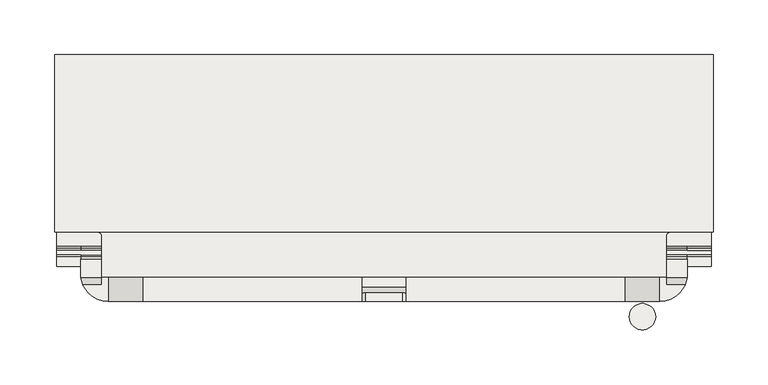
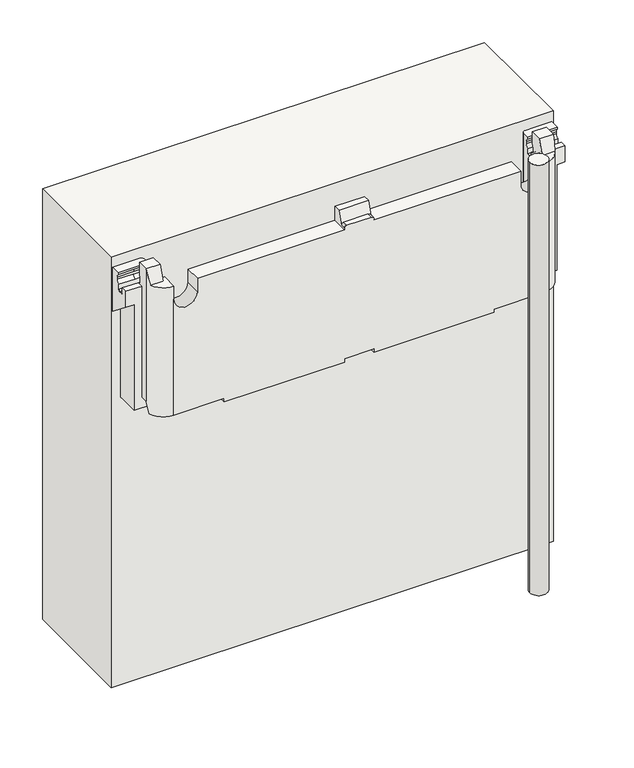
"""IFC4 building model written with IfcOpenShell, lengths in millimetres: covering geometry, panel VP Modulo prova ultima texture : panel VP Modulo prova ultima texture."""

from ifc_helpers import new_model, si_unit, point, frame, frame_2d, origin, origin_with_axes, place, context, project, spatial, polyline, circle_curve, ellipse_curve, trimmed, segment, composite_curve, outline, extrude, source, transform, mapped, element, save
from ifc_brep_helpers import plane_surface, cylinder_surface, revolved_surface, advanced_brep


def covering_2c5bf4f4(model_context):
    return source(origin(), model_context, "Body", "SolidModel", [
        advanced_brep(
        [(-20.0, 40.503817, 617.5220564), (-20.0, 49.5015434, 617.5220564), (-20.0, 49.5015434, 597.5249996), (-20.0, 27.5015432, 597.5249996), (-20.0, 27.5015432, 599.5249996), (-20.0, 34.5021229, 599.5249996), (20.0, 49.5015434, 617.5220564), (20.0, 40.503817, 617.5220564), (20.0, 34.5021229, 599.5249996), (20.0, 27.5015432, 599.5249996), (20.0, 27.5015432, 597.5249996), (20.0, 49.5015434, 597.5249996), (-17.0, 35.5025688, 602.5249996), (17.0, 35.5025688, 602.5249996), (17.0, 27.5015432, 602.5249996), (-17.0, 27.5015432, 602.5249996), (-276.2404059, 49.5015434, 617.5198754), (-276.2404059, 65.772467, 617.5198754), (-276.2404059, 65.772467, 599.5768312), (-276.2404059, 63.7739273, 594.6813202), (-276.2404059, 63.7739273, 591.6813202), (-276.2404059, 67.7745502, 586.9851203), (-276.2404059, 59.5, 586.9851203), (-276.2404059, 59.5, 427.5207128), (-276.2404059, 49.5015434, 427.5207128), (276.2404059, 67.7745502, 586.9851203), (276.2404059, 63.7739273, 591.6813202), (276.2404059, 63.7739273, 594.6813202), (276.2404059, 65.772467, 599.5768312), (276.2404059, 65.772467, 617.5198754), (276.2404059, 49.5015434, 617.5198754), (276.2404059, 49.5015434, 427.5207128), (276.2404059, 59.5, 427.5207128), (276.2404059, 59.5, 586.9851203), (219.5404059, 27.5015432, 597.5249996), (219.5404059, 49.5015434, 597.5249996), (257.5404059, 42.6167555, 597.5249996), (257.5404059, 49.5015434, 597.5249996), (251.5404059, 49.5015434, 597.5249996), (251.5404059, 27.5015432, 597.5249996), (274.4146377, 42.6167555, 597.5249996), (-251.5404059, 27.5015432, 597.5249996), (-251.5404059, 49.5015434, 597.5249996), (-257.5404059, 49.5015434, 597.5249996), (-257.5404059, 42.6167555, 597.5249996), (-274.4146377, 42.6167555, 597.5249996), (-219.5404059, 49.5015434, 597.5249996), (-219.5404059, 27.5015432, 597.5249996), (-276.2404059, 109.8415131, 434.5213892), (276.2404059, 109.8415131, 434.5213892), (276.2404059, 141.2113001, 462.1618818), (-276.2404059, 141.2113001, 462.1618818), (-276.2404059, 147.3447094, 468.6241094), (276.2404059, 147.3447094, 468.6241094), (276.2404059, 184.4941844, 515.5067645), (-276.2404059, 184.4941844, 515.5067645), (276.2404059, 184.4941844, 542.5056194), (-276.2404059, 184.4941844, 542.5056194), (298.2404059, 184.4914281, 542.5056194), (298.2404059, 202.488872, 542.5056194), (-298.2404059, 202.488872, 542.5056194), (-298.2404059, 184.4914281, 542.5056194), (-298.2404059, 202.488872, 502.7923442), (298.2404059, 202.488872, 502.7923442), (276.2404059, 193.4423608, 461.4138134), (-276.2404059, 193.4423608, 461.4138134), (-298.2404059, 193.4423608, 461.4138134), (298.2404059, 193.4423608, 461.4138134), (276.2404059, 190.281945, 460.2861233), (-276.2404059, 190.281945, 460.2861233), (298.2404059, 190.281945, 460.2861233), (298.2404059, 59.5, 563.9167777), (287.2404059, 59.5, 563.9167777), (287.2404059, 180.2456216, 468.2388324), (276.2404059, 180.2456216, 468.2388324), (-276.2404059, 180.2456216, 468.2388324), (-287.2404059, 180.2456216, 468.2388324), (-287.2404059, 59.5, 563.9167777), (-298.2404059, 59.5, 563.9167777), (-298.2404059, 190.281945, 460.2861233), (276.2404059, 174.5899002, 467.5837505), (-276.2404059, 174.5899002, 467.5837505), (287.2404059, 174.5899002, 467.5837505), (287.2404059, 160.5878776, 449.9132262), (-287.2404059, 160.5878776, 449.9132262), (-287.2404059, 174.5899002, 467.5837505), (-287.2404059, 118.1414154, 412.5128727), (287.2404059, 118.1414154, 412.5128727), (251.5404059, 118.1414154, 412.5128727), (211.5404059, 118.1414154, 412.5128727), (20.0, 118.1414154, 412.5128727), (-20.0, 118.1414154, 412.5128727), (-211.5404059, 118.1414154, 412.5128727), (-251.5404059, 118.1414154, 412.5128727), (-287.2404059, 59.5, 412.5250013), (-251.5404059, 78.1414154, 412.5250013), (-211.5404059, 78.1414154, 412.5250013), (-20.0, 78.1414154, 412.5250013), (20.0, 78.1414154, 412.5250013), (211.5404059, 78.1414154, 412.5250013), (251.5404059, 78.1414154, 412.5250013), (287.2404059, 59.5, 412.5250013), (266.2404059, 59.5, 412.5250013), (266.2404059, 44.6291413, 412.5250013), (275.1714066, 44.6291413, 412.5250013), (251.5404059, 27.5015432, 412.5250013), (183.2404059, 27.5015432, 412.5250013), (183.2404059, 67.5015432, 412.5250013), (20.0, 67.5015432, 412.5250013), (20.0, 27.5015432, 412.5250013), (-20.0, 27.5015432, 412.5250013), (-20.0, 67.5015432, 412.5250013), (-183.2404059, 67.5015432, 412.5250013), (-183.2404059, 27.5015432, 412.5250013), (-251.5404059, 27.5015432, 412.5250013), (-275.1714066, 44.6291413, 412.5250013), (-266.2404059, 44.6291413, 412.5250013), (-266.2404059, 59.5, 412.5250013), (-219.5404059, 27.5015432, 578.501469), (-251.5404059, 27.5015432, 578.501469), (-183.2404059, 27.5015432, 407.5154158), (-20.0, 27.5015432, 407.5154158), (20.0, 27.5015432, 407.5154158), (183.2404059, 27.5015432, 407.5154158), (251.5404059, 27.5015432, 578.501469), (219.5404059, 27.5015432, 578.501469), (-251.5404059, 49.5015434, 578.501469), (-219.5404059, 49.5015434, 578.501469), (219.5404059, 49.5015434, 578.501469), (251.5404059, 49.5015434, 578.501469), (257.5404059, 49.5015434, 434.5213892), (-257.5404059, 49.5015434, 434.5213892), (-276.2404059, 101.3665857, 434.5213892), (-265.6338042, 90.7599839, 434.5213892), (-261.9338042, 90.7599839, 434.5213892), (-257.5404059, 86.3665857, 434.5213892), (257.5404059, 86.3665857, 434.5213892), (261.9338042, 90.7599839, 434.5213892), (265.6338042, 90.7599839, 434.5213892), (276.2404059, 101.3665857, 434.5213892), (-298.2404059, 59.5, 586.9851203), (-298.2404059, 67.7745502, 586.9851203), (-298.2404059, 67.7745502, 579.9852856), (-298.2404059, 69.7745502, 577.9852856), (-298.2404059, 74.0001297, 577.9852856), (-298.2404059, 76.0001297, 579.9852856), (-298.2404059, 76.0001297, 586.9851203), (-298.2404059, 80.0007527, 591.6813202), (-298.2404059, 80.0007527, 594.6813202), (-298.2404059, 78.002213, 599.5768312), (-298.2404059, 78.002213, 602.5285461), (-298.2404059, 115.166168, 602.5285461), (-298.2404059, 118.166168, 599.5285461), (-298.2404059, 118.166168, 583.2479937), (-298.2404059, 119.6447617, 580.6623946), (-276.2404059, 119.6447617, 580.6623946), (-276.2404059, 118.166168, 583.2479937), (-276.2404059, 118.166168, 599.5285461), (-276.2404059, 115.166168, 602.5285461), (-276.2404059, 101.3665857, 602.5285461), (-266.2404059, 59.5, 427.5207128), (-257.5404059, 67.7745502, 586.9851203), (-257.5404059, 67.7745502, 579.9852856), (-276.2404059, 67.7745502, 579.9852856), (-276.2404059, 69.7745502, 577.9852856), (-257.5404059, 69.7745502, 577.9852856), (-257.5404059, 74.0001297, 577.9852856), (-276.2404059, 74.0001297, 577.9852856), (-276.2404059, 76.0001297, 579.9852856), (-257.5404059, 76.0001297, 579.9852856), (-257.5404059, 76.0001297, 586.9851203), (-276.2404059, 76.0001297, 586.9851203), (-276.2404059, 80.0007527, 591.6813202), (-257.5404059, 80.0007527, 591.6813202), (-257.5404059, 80.0007527, 594.6813202), (-276.2404059, 80.0007527, 594.6813202), (-276.2404059, 78.002213, 599.5768312), (-257.5404059, 78.002213, 599.5768312), (-257.5404059, 78.002213, 602.5285461), (-257.5404059, 86.3665857, 602.5285461), (-261.9338042, 90.7599839, 602.5285461), (-265.6338042, 90.7599839, 602.5285461), (-257.5404059, 63.7739273, 591.6813202), (-257.5404059, 63.7739273, 594.6813202), (-257.5404059, 65.772467, 599.5768312), (-257.5404059, 65.772467, 617.5198754), (-257.5404059, 49.5015434, 617.5198754), (298.2404059, 119.6447617, 580.6623946), (298.2404059, 118.166168, 583.2479937), (298.2404059, 118.166168, 599.5285461), (298.2404059, 115.166168, 602.5285461), (298.2404059, 78.002213, 602.5285461), (298.2404059, 78.002213, 599.5768312), (298.2404059, 80.0007527, 594.6813202), (298.2404059, 80.0007527, 591.6813202), (298.2404059, 76.0001297, 586.9851203), (298.2404059, 76.0001297, 579.9852856), (298.2404059, 74.0001297, 577.9852856), (298.2404059, 69.7745502, 577.9852856), (298.2404059, 67.7745502, 579.9852856), (298.2404059, 67.7745502, 586.9851203), (298.2404059, 59.5, 586.9851203), (276.2404059, 115.166168, 602.5285461), (276.2404059, 118.166168, 599.5285461), (276.2404059, 118.166168, 583.2479937), (276.2404059, 119.6447617, 580.6623946), (276.2404059, 101.3665857, 602.5285461), (266.2404059, 59.5, 427.5207128), (276.2404059, 69.7745502, 577.9852856), (276.2404059, 67.7745502, 579.9852856), (276.2404059, 76.0001297, 579.9852856), (276.2404059, 74.0001297, 577.9852856), (276.2404059, 80.0007527, 591.6813202), (276.2404059, 76.0001297, 586.9851203), (276.2404059, 78.002213, 599.5768312), (276.2404059, 80.0007527, 594.6813202), (257.5404059, 49.5015434, 617.5198754), (257.5404059, 65.772467, 617.5198754), (257.5404059, 65.772467, 599.5768312), (257.5404059, 63.7739273, 594.6813202), (257.5404059, 63.7739273, 591.6813202), (257.5404059, 67.7745502, 586.9851203), (257.5404059, 67.7745502, 579.9852856), (257.5404059, 69.7745502, 577.9852856), (257.5404059, 74.0001297, 577.9852856), (257.5404059, 76.0001297, 579.9852856), (257.5404059, 76.0001297, 586.9851203), (257.5404059, 80.0007527, 591.6813202), (257.5404059, 80.0007527, 594.6813202), (257.5404059, 78.002213, 599.5768312), (257.5404059, 78.002213, 602.5285461), (257.5404059, 86.3665857, 602.5285461), (265.6338042, 90.7599839, 602.5285461), (261.9338042, 90.7599839, 602.5285461), (251.5404059, 78.1414154, 407.5154158), (211.5404059, 78.1414154, 407.5154158), (211.5404059, 118.1414154, 407.5154158), (251.5404059, 118.1414154, 407.5154158), (-20.0, 78.1414154, 407.5154158), (-20.0, 118.1414154, 407.5154158), (20.0, 118.1414154, 407.5154158), (20.0, 78.1414154, 407.5154158), (-251.5404059, 78.1414154, 407.5154158), (-251.5404059, 118.1414154, 407.5154158), (-211.5404059, 118.1414154, 407.5154158), (-211.5404059, 78.1414154, 407.5154158), (20.0, 67.5015432, 407.5154158), (183.2404059, 67.5015432, 407.5154158), (-20.0, 67.5015432, 407.5154158), (-183.2404059, 67.5015432, 407.5154158), (-266.2404059, 49.5015434, 427.5207128), (266.2404059, 49.5015434, 427.5207128)],
        [
            (0, 1),
            (1, 2),
            (2, 3),
            (3, 4),
            (4, 5),
            (5, 0),
            (6, 7),
            (7, 8),
            (8, 9),
            (9, 10),
            (10, 11),
            (11, 6),
            (0, 7),
            (6, 1),
            (5, 12, ellipse_curve(frame((-17.0, 34.5021229, 599.5249996), z_axis=(0.0, 0.9486409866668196, -0.31635467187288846), x_axis=(0.0, 0.31635467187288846, 0.9486409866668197)), 3.1624187, 3.0)),
            (12, 13),
            (13, 8, ellipse_curve(frame((17.0, 34.5021229, 599.5249996), z_axis=(0.0, 0.9486409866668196, -0.31635467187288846), x_axis=(0.0, 0.31635467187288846, 0.9486409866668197)), 3.1624187, 3.0)),
            (14, 9, circle_curve(frame((17.0, 27.5015432, 599.5249996), z_axis=(0.0, 1.0, 0.0), x_axis=(-1.0, 0.0, 0.0)), 3.0)),
            (13, 14),
            (4, 15, circle_curve(frame((-17.0, 27.5015432, 599.5249996), z_axis=(0.0, 1.0, 0.0), x_axis=(-1.0, 0.0, 0.0)), 3.0)),
            (15, 12),
            (15, 14),
            (16, 17),
            (17, 18),
            (18, 19, circle_curve(frame((-276.2404059, 70.7690822, 594.6813202), z_axis=(1.0, 0.0, 0.0), x_axis=(0.0, -1.0, 0.0)), 6.9951549)),
            (19, 20),
            (20, 21, circle_curve(frame((-276.2404059, 68.5305961, 591.6813202), z_axis=(1.0, 0.0, 0.0), x_axis=(0.0, -1.0, 0.0)), 4.7566689)),
            (21, 22),
            (22, 23),
            (23, 24),
            (24, 16),
            (25, 26, circle_curve(frame((276.2404059, 68.5305961, 591.6813202), z_axis=(-1.0, 0.0, 0.0), x_axis=(0.0, -1.0, 0.0)), 4.7566689)),
            (26, 27),
            (27, 28, circle_curve(frame((276.2404059, 70.7690822, 594.6813202), z_axis=(-1.0, 0.0, 0.0), x_axis=(0.0, -1.0, 0.0)), 6.9951549)),
            (28, 29),
            (29, 30),
            (30, 31),
            (31, 32),
            (32, 33),
            (33, 25),
            (10, 34),
            (34, 35),
            (35, 11),
            (36, 37),
            (37, 38),
            (38, 39),
            (39, 40, circle_curve(frame((251.5404059, 52.367225, 597.5249996), z_axis=(0.0, 0.0, 1.0), x_axis=(1.0, 0.0, 0.0)), 24.8656818)),
            (40, 36),
            (41, 42),
            (42, 43),
            (43, 44),
            (44, 45),
            (45, 41, circle_curve(frame((-251.5404059, 52.367225, 597.5249996), z_axis=(0.0, 0.0, 1.0), x_axis=(-1.0, 0.0, 0.0)), 24.8656818)),
            (46, 47),
            (47, 3),
            (2, 46),
            (48, 49),
            (49, 50),
            (50, 51),
            (51, 48),
            (52, 53),
            (53, 54),
            (54, 55),
            (55, 52),
            (54, 56),
            (56, 57),
            (57, 55),
            (56, 58),
            (58, 59),
            (59, 60),
            (60, 61),
            (61, 57),
            (62, 60),
            (59, 63),
            (63, 62),
            (64, 65),
            (65, 66),
            (66, 62),
            (63, 67),
            (67, 64),
            (64, 68, circle_curve(frame((276.2404059, 191.5102381, 461.8362298), z_axis=(-1.0, 0.0, 0.0), x_axis=(0.0, -1.0, 0.0)), 1.9777598)),
            (68, 69),
            (69, 65, circle_curve(frame((-276.2404059, 191.5102381, 461.8362298), z_axis=(1.0, 0.0, 0.0), x_axis=(0.0, -1.0, 0.0)), 1.9777598)),
            (68, 70),
            (70, 71),
            (71, 72),
            (72, 73),
            (73, 74),
            (74, 75),
            (75, 76),
            (76, 77),
            (77, 78),
            (78, 79),
            (79, 69),
            (74, 80, circle_curve(frame((276.2404059, 177.7453022, 465.0834279), z_axis=(1.0, 0.0, 0.0), x_axis=(0.0, -1.0, 0.0)), 4.0259377)),
            (80, 81),
            (81, 75, circle_curve(frame((-276.2404059, 177.7453022, 465.0834279), z_axis=(-1.0, 0.0, 0.0), x_axis=(0.0, -1.0, 0.0)), 4.0259377)),
            (80, 82),
            (82, 83),
            (83, 84),
            (84, 85),
            (85, 81),
            (86, 84),
            (83, 87),
            (87, 88),
            (88, 89),
            (89, 90),
            (90, 91),
            (91, 92),
            (92, 93),
            (93, 86),
            (50, 53, circle_curve(frame((276.2404059, 108.1562691, 499.6767445), z_axis=(1.0, 0.0, 0.0), x_axis=(0.0, -1.0, 0.0)), 50.0)),
            (52, 51, circle_curve(frame((-276.2404059, 108.1562691, 499.6767445), z_axis=(-1.0, 0.0, 0.0), x_axis=(0.0, -1.0, 0.0)), 50.0)),
            (94, 86),
            (93, 95),
            (95, 96),
            (96, 92),
            (91, 97),
            (97, 98),
            (98, 90),
            (89, 99),
            (99, 100),
            (100, 88),
            (87, 101),
            (101, 102),
            (102, 103),
            (103, 104),
            (104, 105, circle_curve(frame((251.5404059, 52.367225, 412.5250013), z_axis=(0.0, 0.0, -1.0), x_axis=(1.0, 0.0, 0.0)), 24.8656818)),
            (105, 106),
            (106, 107),
            (107, 108),
            (108, 109),
            (109, 110),
            (110, 111),
            (111, 112),
            (112, 113),
            (113, 114),
            (114, 115, circle_curve(frame((-251.5404059, 52.367225, 412.5250013), z_axis=(0.0, 0.0, -1.0), x_axis=(-1.0, 0.0, 0.0)), 24.8656818)),
            (115, 116),
            (116, 117),
            (117, 94),
            (47, 118),
            (118, 119, circle_curve(frame((-235.5404059, 27.5015432, 578.501469), z_axis=(0.0, 1.0, 0.0), x_axis=(-1.0, 0.0, 0.0)), 16.0)),
            (119, 114),
            (113, 120),
            (120, 121),
            (121, 110),
            (109, 122),
            (122, 123),
            (123, 106),
            (105, 124),
            (124, 125, circle_curve(frame((235.5404059, 27.5015432, 578.501469), z_axis=(0.0, 1.0, 0.0), x_axis=(1.0, 0.0, 0.0)), 16.0)),
            (125, 34),
            (42, 126),
            (126, 127, circle_curve(frame((-235.5404059, 49.5015434, 578.501469), z_axis=(0.0, -1.0, 0.0), x_axis=(-1.0, 0.0, 0.0)), 16.0)),
            (127, 46),
            (35, 128),
            (128, 129, circle_curve(frame((235.5404059, 49.5015434, 578.501469), z_axis=(0.0, -1.0, 0.0), x_axis=(1.0, 0.0, 0.0)), 16.0)),
            (129, 38),
            (37, 130),
            (130, 131),
            (131, 43),
            (48, 132),
            (132, 133, circle_curve(frame((-265.6338042, 101.3665857, 434.5213892), z_axis=(0.0, 0.0, 1.0), x_axis=(-1.0, 0.0, 0.0)), 10.6066017)),
            (133, 134),
            (134, 135, circle_curve(frame((-261.9338042, 86.3665857, 434.5213892), z_axis=(0.0, 0.0, -1.0), x_axis=(-1.0, 0.0, 0.0)), 4.3933983)),
            (135, 131),
            (130, 136),
            (136, 137, circle_curve(frame((261.9338042, 86.3665857, 434.5213892), z_axis=(0.0, 0.0, -1.0), x_axis=(1.0, 0.0, 0.0)), 4.3933983)),
            (137, 138),
            (138, 139, circle_curve(frame((265.6338042, 101.3665857, 434.5213892), z_axis=(0.0, 0.0, 1.0), x_axis=(1.0, 0.0, 0.0)), 10.6066017)),
            (139, 49),
            (66, 79, circle_curve(frame((-298.2404059, 191.5102381, 461.8362298), z_axis=(-1.0, 0.0, 0.0), x_axis=(0.0, -1.0, 0.0)), 1.9777598)),
            (78, 140),
            (140, 141),
            (141, 142),
            (142, 143, circle_curve(frame((-298.2404059, 69.7745502, 579.9852856), z_axis=(1.0, 0.0, 0.0), x_axis=(0.0, -1.0, 0.0)), 2.0)),
            (143, 144),
            (144, 145, circle_curve(frame((-298.2404059, 74.0001297, 579.9852856), z_axis=(1.0, 0.0, 0.0), x_axis=(0.0, -1.0, 0.0)), 2.0)),
            (145, 146),
            (146, 147, circle_curve(frame((-298.2404059, 75.2440838, 591.6813202), z_axis=(1.0, 0.0, 0.0), x_axis=(0.0, -1.0, 0.0)), 4.7566689)),
            (147, 148),
            (148, 149, circle_curve(frame((-298.2404059, 73.0055977, 594.6813202), z_axis=(1.0, 0.0, 0.0), x_axis=(0.0, -1.0, 0.0)), 6.9951549)),
            (149, 150),
            (150, 151),
            (151, 152, circle_curve(frame((-298.2404059, 115.166168, 599.5285461), z_axis=(-1.0, 0.0, 0.0), x_axis=(0.0, -1.0, 0.0)), 3.0)),
            (152, 153),
            (153, 154, circle_curve(frame((-298.2404059, 121.166168, 583.2479937), z_axis=(1.0, 0.0, 0.0), x_axis=(0.0, -1.0, 0.0)), 3.0)),
            (154, 61),
            (57, 155),
            (155, 156, circle_curve(frame((-276.2404059, 121.166168, 583.2479937), z_axis=(-1.0, 0.0, 0.0), x_axis=(0.0, -1.0, 0.0)), 3.0)),
            (156, 157),
            (157, 158, circle_curve(frame((-276.2404059, 115.166168, 599.5285461), z_axis=(1.0, 0.0, 0.0), x_axis=(0.0, -1.0, 0.0)), 3.0)),
            (158, 159),
            (159, 132),
            (77, 94),
            (117, 160),
            (160, 23),
            (22, 140),
            (141, 21),
            (21, 161),
            (161, 162),
            (162, 163),
            (163, 142),
            (163, 164, circle_curve(frame((-276.2404059, 69.7745502, 579.9852856), z_axis=(1.0, 0.0, 0.0), x_axis=(0.0, -1.0, 0.0)), 2.0)),
            (164, 143),
            (164, 165),
            (165, 166),
            (166, 167),
            (167, 144),
            (167, 168, circle_curve(frame((-276.2404059, 74.0001297, 579.9852856), z_axis=(1.0, 0.0, 0.0), x_axis=(0.0, -1.0, 0.0)), 2.0)),
            (168, 145),
            (168, 169),
            (169, 170),
            (170, 171),
            (171, 146),
            (171, 172, circle_curve(frame((-276.2404059, 75.2440838, 591.6813202), z_axis=(1.0, 0.0, 0.0), x_axis=(0.0, -1.0, 0.0)), 4.7566689)),
            (172, 147),
            (172, 173),
            (173, 174),
            (174, 175),
            (175, 148),
            (175, 176, circle_curve(frame((-276.2404059, 73.0055977, 594.6813202), z_axis=(1.0, 0.0, 0.0), x_axis=(0.0, -1.0, 0.0)), 6.9951549)),
            (176, 149),
            (176, 177),
            (177, 178),
            (178, 150),
            (178, 179),
            (179, 180, circle_curve(frame((-261.9338042, 86.3665857, 602.5285461), z_axis=(0.0, 0.0, 1.0), x_axis=(-1.0, 0.0, 0.0)), 4.3933983)),
            (180, 181),
            (181, 159, circle_curve(frame((-265.6338042, 101.3665857, 602.5285461), z_axis=(0.0, 0.0, -1.0), x_axis=(-1.0, 0.0, 0.0)), 10.6066017)),
            (158, 151),
            (157, 152),
            (156, 153),
            (155, 154),
            (76, 85, circle_curve(frame((-287.2404059, 177.7453022, 465.0834279), z_axis=(1.0, 0.0, 0.0), x_axis=(0.0, -1.0, 0.0)), 4.0259377)),
            (45, 16, ellipse_curve(frame((-251.5404059, 52.367225, 625.842419), z_axis=(0.0, 0.9455185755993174, -0.32556815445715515), x_axis=(0.0, -0.3255681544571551, -0.9455185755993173)), 76.3762716, 24.8656818)),
            (24, 115, ellipse_curve(frame((-251.5404059, 52.367225, 436.3403739), z_axis=(0.0, -0.9510565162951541, 0.3090169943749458), x_axis=(0.0, -0.30901699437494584, -0.9510565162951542)), 80.4670366, 24.8656818)),
            (119, 41),
            (177, 174, circle_curve(frame((-257.5404059, 73.0055977, 594.6813202), z_axis=(-1.0, 0.0, 0.0), x_axis=(0.0, -1.0, 0.0)), 6.9951549)),
            (173, 170, circle_curve(frame((-257.5404059, 75.2440838, 591.6813202), z_axis=(-1.0, 0.0, 0.0), x_axis=(0.0, -1.0, 0.0)), 4.7566689)),
            (169, 166, circle_curve(frame((-257.5404059, 74.0001297, 579.9852856), z_axis=(-1.0, 0.0, 0.0), x_axis=(0.0, -1.0, 0.0)), 2.0)),
            (165, 162, circle_curve(frame((-257.5404059, 69.7745502, 579.9852856), z_axis=(-1.0, 0.0, 0.0), x_axis=(0.0, -1.0, 0.0)), 2.0)),
            (161, 182, circle_curve(frame((-257.5404059, 68.5305961, 591.6813202), z_axis=(-1.0, 0.0, 0.0), x_axis=(0.0, -1.0, 0.0)), 4.7566689)),
            (182, 183),
            (183, 184, circle_curve(frame((-257.5404059, 70.7690822, 594.6813202), z_axis=(-1.0, 0.0, 0.0), x_axis=(0.0, -1.0, 0.0)), 6.9951549)),
            (184, 185),
            (185, 186),
            (186, 44),
            (135, 179),
            (16, 186),
            (185, 17),
            (184, 18),
            (183, 19),
            (182, 20),
            (134, 180),
            (133, 181),
            (39, 124),
            (104, 31, ellipse_curve(frame((251.5404059, 52.367225, 436.3403739), z_axis=(0.0, -0.9510565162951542, 0.3090169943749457), x_axis=(0.0, -0.3090169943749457, -0.9510565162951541)), 80.4670366, 24.8656818)),
            (30, 40, ellipse_curve(frame((251.5404059, 52.367225, 625.842419), z_axis=(0.0, 0.9455185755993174, -0.3255681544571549), x_axis=(0.0, -0.3255681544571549, -0.9455185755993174)), 76.3762716, 24.8656818)),
            (58, 187),
            (187, 188, circle_curve(frame((298.2404059, 121.166168, 583.2479937), z_axis=(-1.0, 0.0, 0.0), x_axis=(0.0, -1.0, 0.0)), 3.0)),
            (188, 189),
            (189, 190, circle_curve(frame((298.2404059, 115.166168, 599.5285461), z_axis=(1.0, 0.0, 0.0), x_axis=(0.0, -1.0, 0.0)), 3.0)),
            (190, 191),
            (191, 192),
            (192, 193, circle_curve(frame((298.2404059, 73.0055977, 594.6813202), z_axis=(-1.0, 0.0, 0.0), x_axis=(0.0, -1.0, 0.0)), 6.9951549)),
            (193, 194),
            (194, 195, circle_curve(frame((298.2404059, 75.2440838, 591.6813202), z_axis=(-1.0, 0.0, 0.0), x_axis=(0.0, -1.0, 0.0)), 4.7566689)),
            (195, 196),
            (196, 197, circle_curve(frame((298.2404059, 74.0001297, 579.9852856), z_axis=(-1.0, 0.0, 0.0), x_axis=(0.0, -1.0, 0.0)), 2.0)),
            (197, 198),
            (198, 199, circle_curve(frame((298.2404059, 69.7745502, 579.9852856), z_axis=(-1.0, 0.0, 0.0), x_axis=(0.0, -1.0, 0.0)), 2.0)),
            (199, 200),
            (200, 201),
            (201, 71),
            (70, 67, circle_curve(frame((298.2404059, 191.5102381, 461.8362298), z_axis=(1.0, 0.0, 0.0), x_axis=(0.0, -1.0, 0.0)), 1.9777598)),
            (202, 203, circle_curve(frame((276.2404059, 115.166168, 599.5285461), z_axis=(-1.0, 0.0, 0.0), x_axis=(0.0, -1.0, 0.0)), 3.0)),
            (203, 204),
            (204, 205, circle_curve(frame((276.2404059, 121.166168, 583.2479937), z_axis=(1.0, 0.0, 0.0), x_axis=(0.0, -1.0, 0.0)), 3.0)),
            (205, 56),
            (139, 206),
            (206, 202),
            (201, 33),
            (32, 207),
            (207, 102),
            (101, 72),
            (198, 208),
            (208, 209, circle_curve(frame((276.2404059, 69.7745502, 579.9852856), z_axis=(-1.0, 0.0, 0.0), x_axis=(0.0, -1.0, 0.0)), 2.0)),
            (209, 199),
            (196, 210),
            (210, 211, circle_curve(frame((276.2404059, 74.0001297, 579.9852856), z_axis=(-1.0, 0.0, 0.0), x_axis=(0.0, -1.0, 0.0)), 2.0)),
            (211, 197),
            (194, 212),
            (212, 213, circle_curve(frame((276.2404059, 75.2440838, 591.6813202), z_axis=(-1.0, 0.0, 0.0), x_axis=(0.0, -1.0, 0.0)), 4.7566689)),
            (213, 195),
            (192, 214),
            (214, 215, circle_curve(frame((276.2404059, 73.0055977, 594.6813202), z_axis=(-1.0, 0.0, 0.0), x_axis=(0.0, -1.0, 0.0)), 6.9951549)),
            (215, 193),
            (189, 203),
            (202, 190),
            (188, 204),
            (187, 205),
            (200, 25),
            (36, 216),
            (216, 217),
            (217, 218),
            (218, 219, circle_curve(frame((257.5404059, 70.7690822, 594.6813202), z_axis=(1.0, 0.0, 0.0), x_axis=(0.0, -1.0, 0.0)), 6.9951549)),
            (219, 220),
            (220, 221, circle_curve(frame((257.5404059, 68.5305961, 591.6813202), z_axis=(1.0, 0.0, 0.0), x_axis=(0.0, -1.0, 0.0)), 4.7566689)),
            (221, 222),
            (222, 223, circle_curve(frame((257.5404059, 69.7745502, 579.9852856), z_axis=(1.0, 0.0, 0.0), x_axis=(0.0, -1.0, 0.0)), 2.0)),
            (223, 224),
            (224, 225, circle_curve(frame((257.5404059, 74.0001297, 579.9852856), z_axis=(1.0, 0.0, 0.0), x_axis=(0.0, -1.0, 0.0)), 2.0)),
            (225, 226),
            (226, 227, circle_curve(frame((257.5404059, 75.2440838, 591.6813202), z_axis=(1.0, 0.0, 0.0), x_axis=(0.0, -1.0, 0.0)), 4.7566689)),
            (227, 228),
            (228, 229, circle_curve(frame((257.5404059, 73.0055977, 594.6813202), z_axis=(1.0, 0.0, 0.0), x_axis=(0.0, -1.0, 0.0)), 6.9951549)),
            (229, 230),
            (230, 231),
            (231, 136),
            (221, 25),
            (209, 222),
            (208, 223),
            (29, 217),
            (216, 30),
            (28, 218),
            (27, 219),
            (26, 220),
            (211, 224),
            (210, 225),
            (213, 226),
            (212, 227),
            (215, 228),
            (214, 229),
            (191, 230),
            (206, 232, circle_curve(frame((265.6338042, 101.3665857, 602.5285461), z_axis=(0.0, 0.0, -1.0), x_axis=(1.0, 0.0, 0.0)), 10.6066017)),
            (232, 233),
            (233, 231, circle_curve(frame((261.9338042, 86.3665857, 602.5285461), z_axis=(0.0, 0.0, 1.0), x_axis=(1.0, 0.0, 0.0)), 4.3933983)),
            (233, 137),
            (232, 138),
            (119, 126),
            (127, 118),
            (129, 124),
            (125, 128),
            (82, 73, circle_curve(frame((287.2404059, 177.7453022, 465.0834279), z_axis=(-1.0, 0.0, 0.0), x_axis=(0.0, -1.0, 0.0)), 4.0259377)),
            (234, 235),
            (235, 236),
            (236, 237),
            (237, 234),
            (234, 100),
            (99, 235),
            (89, 236),
            (88, 237),
            (238, 239),
            (239, 240),
            (240, 241),
            (241, 238),
            (241, 98),
            (97, 238),
            (240, 90),
            (239, 91),
            (242, 243),
            (243, 244),
            (244, 245),
            (245, 242),
            (245, 96),
            (95, 242),
            (244, 92),
            (243, 93),
            (246, 247),
            (247, 123),
            (122, 246),
            (248, 121),
            (120, 249),
            (249, 248),
            (108, 246),
            (247, 107),
            (249, 112),
            (111, 248),
            (250, 160),
            (116, 250),
            (250, 24),
            (251, 103),
            (207, 251),
            (31, 251),
        ],
        [
            plane_surface(frame((-20.0, 49.5042184, 617.5220564), z_axis=(-1.0, 0.0, 0.0), x_axis=(0.0, 1.0, 0.0))),
            plane_surface(frame((20.0, 49.5042184, 617.5220564), z_axis=(1.0, 0.0, 0.0), x_axis=(0.0, -1.0, 0.0))),
            plane_surface(frame((-20.0, 40.503817, 617.5220564), z_axis=(0.0, 0.0, 1.0), x_axis=(1.0, 0.0, 0.0))),
            plane_surface(frame((-20.0, 33.835159, 597.5249996), z_axis=(0.0, -0.9486409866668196, 0.31635467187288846), x_axis=(1.0, 0.0, 0.0))),
            cylinder_surface(frame((17.0, 27.5015432, 599.5249996), z_axis=(0.0, 1.0, 0.0), x_axis=(-1.0, 0.0, 0.0)), 3.0),
            cylinder_surface(frame((-17.0, 27.5015432, 599.5249996), z_axis=(0.0, 1.0, 0.0), x_axis=(-1.0, 0.0, 0.0)), 3.0),
            plane_surface(frame((-17.0, 49.501543, 602.5249996), z_axis=(0.0, 0.0, 1.0), x_axis=(0.0, -1.0, 0.0))),
            plane_surface(frame((-276.2404059, 118.1414154, 412.5128727), z_axis=(-1.0, 0.0, 0.0), x_axis=(0.0, -0.7502972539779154, -0.6611006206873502))),
            plane_surface(frame((276.2404059, 118.1414154, 412.5128727), z_axis=(1.0, 0.0, 0.0), x_axis=(0.0, 0.7502972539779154, 0.6611006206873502))),
            plane_surface(frame((-276.2404059, 27.5015432, 597.5249996), z_axis=(0.0, 0.0, 1.0), x_axis=(1.0, 0.0, 0.0))),
            plane_surface(frame((-276.2404059, 109.8415131, 434.5213892), z_axis=(0.0, -0.6611006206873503, 0.7502972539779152), x_axis=(1.0, 0.0, 0.0))),
            plane_surface(frame((-276.2404059, 147.3447094, 468.6241094), z_axis=(0.0, -0.7837688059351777, 0.6210527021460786), x_axis=(1.0, 0.0, 0.0))),
            plane_surface(frame((-276.2404059, 184.4941844, 515.5067645), z_axis=(0.0, -1.0, 0.0), x_axis=(1.0, 0.0, 0.0))),
            plane_surface(frame((-276.2404059, 184.4941844, 542.5056194), z_axis=(0.0, 0.0, 1.0), x_axis=(1.0, 0.0, 0.0))),
            plane_surface(frame((-276.2404059, 202.488872, 542.5056194), z_axis=(0.0, 1.0, 0.0), x_axis=(1.0, 0.0, 0.0))),
            plane_surface(frame((-276.2404059, 202.488872, 502.7923442), z_axis=(0.0, 0.9769248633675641, -0.21358326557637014), x_axis=(1.0, 0.0, 0.0))),
            cylinder_surface(frame((276.2404059, 191.5102381, 461.8362298), z_axis=(-1.0, 0.0, 0.0), x_axis=(0.0, -1.0, 0.0)), 1.9777598),
            plane_surface(frame((-276.2404059, 190.281945, 460.2861233), z_axis=(0.0, -0.6210526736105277, -0.7837688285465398), x_axis=(1.0, 0.0, 0.0))),
            revolved_surface(polyline([(276.2404059, 173.71936449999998, 465.0834279), (-276.2404059, 173.71936449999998, 465.0834279)]), (276.2404059, 177.7453022, 465.0834279), (1.0, 0.0, 0.0)),
            plane_surface(frame((-276.2404059, 174.5899002, 467.5837505), z_axis=(0.0, 0.7837682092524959, -0.6210534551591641), x_axis=(1.0, 0.0, 0.0))),
            plane_surface(frame((-276.2404059, 160.5878776, 449.9132262), z_axis=(0.0, 0.6611006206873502, -0.7502972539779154), x_axis=(1.0, 0.0, 0.0))),
            revolved_surface(polyline([(276.2404059, 58.1562691, 499.6767445), (-276.2404059, 58.1562691, 499.6767445)]), (276.2404059, 108.1562691, 499.6767445), (1.0, 0.0, 0.0)),
            plane_surface(frame((-276.2404059, 118.1551803, 412.5250013), z_axis=(0.0, 0.0, -1.0), x_axis=(1.0, 0.0, 0.0))),
            plane_surface(frame((-276.2404059, 27.5015432, 412.5250013), z_axis=(0.0, -1.0, 0.0), x_axis=(1.0, 0.0, 0.0))),
            plane_surface(frame((-276.2404059, 49.5015434, 597.5249996), z_axis=(0.0, 1.0, 0.0), x_axis=(1.0, 0.0, 0.0))),
            plane_surface(frame((-276.2404059, 49.5015434, 434.5213892), z_axis=(0.0, 0.0, 1.0), x_axis=(1.0, 0.0, 0.0))),
            plane_surface(frame((-298.2404059, 202.488872, 502.7923442), z_axis=(-1.0000000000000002, 0.0, 0.0), x_axis=(0.0, -0.21358326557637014, -0.9769248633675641))),
            plane_surface(frame((-276.2404059, 202.488872, 502.7923442), z_axis=(1.0000000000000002, 0.0, 0.0), x_axis=(0.0, 0.21358326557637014, 0.9769248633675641))),
            cylinder_surface(frame((-276.2404059, 191.5102381, 461.8362298), z_axis=(-1.0, 0.0, 0.0), x_axis=(0.0, -1.0, 0.0)), 1.9777598),
            plane_surface(frame((-298.2404059, 59.5, 563.9167777), z_axis=(0.0, -1.0, 0.0), x_axis=(1.0, 0.0, 0.0))),
            plane_surface(frame((-298.2404059, 67.7745502, 586.9851203), z_axis=(0.0, 1.0, 0.0), x_axis=(1.0, 0.0, 0.0))),
            revolved_surface(polyline([(-276.2404059, 67.7745502, 579.9852856), (-298.2404059, 67.7745502, 579.9852856)]), (-276.2404059, 69.7745502, 579.9852856), (1.0, 0.0, 0.0)),
            plane_surface(frame((-298.2404059, 69.7745502, 577.9852856), z_axis=(0.0, 0.0, 1.0), x_axis=(1.0, 0.0, 0.0))),
            revolved_surface(polyline([(-276.2404059, 72.0001297, 579.9852856), (-298.2404059, 72.0001297, 579.9852856)]), (-276.2404059, 74.0001297, 579.9852856), (1.0, 0.0, 0.0)),
            plane_surface(frame((-298.2404059, 76.0001297, 579.9852856), z_axis=(0.0, -1.0, 0.0), x_axis=(1.0, 0.0, 0.0))),
            revolved_surface(polyline([(-276.2404059, 70.4874149, 591.6813202), (-298.2404059, 70.4874149, 591.6813202)]), (-276.2404059, 75.2440838, 591.6813202), (1.0, 0.0, 0.0)),
            plane_surface(frame((-298.2404059, 80.0007527, 591.6813202), z_axis=(0.0, -1.0, 0.0), x_axis=(1.0, 0.0, 0.0))),
            revolved_surface(polyline([(-276.2404059, 66.01044279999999, 594.6813202), (-298.2404059, 66.01044279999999, 594.6813202)]), (-276.2404059, 73.0055977, 594.6813202), (1.0, 0.0, 0.0)),
            plane_surface(frame((-298.2404059, 78.002213, 599.5768312), z_axis=(0.0, -1.0, 0.0), x_axis=(1.0, 0.0, 0.0))),
            plane_surface(frame((-298.2404059, 78.002213, 602.5285461), z_axis=(0.0, 0.0, 1.0), x_axis=(1.0, 0.0, 0.0))),
            cylinder_surface(frame((-276.2404059, 115.166168, 599.5285461), z_axis=(-1.0, 0.0, 0.0), x_axis=(0.0, -1.0, 0.0)), 3.0),
            plane_surface(frame((-298.2404059, 118.166168, 599.5285461), z_axis=(0.0, 1.0, 0.0), x_axis=(1.0, 0.0, 0.0))),
            revolved_surface(polyline([(-276.2404059, 118.166168, 583.2479937), (-298.2404059, 118.166168, 583.2479937)]), (-276.2404059, 121.166168, 583.2479937), (1.0, 0.0, 0.0)),
            plane_surface(frame((-298.2404059, 119.6447617, 580.6623946), z_axis=(0.0, 0.5071354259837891, 0.8618663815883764), x_axis=(1.0, 0.0, 0.0))),
            plane_surface(frame((-298.2404059, 59.5, 586.9851203), z_axis=(0.0, 0.0, 1.0), x_axis=(1.0, 0.0, 0.0))),
            plane_surface(frame((-287.2404059, 174.5899002, 467.5837505), z_axis=(-1.0, 0.0, 0.0), x_axis=(0.0, -0.6210534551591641, -0.7837682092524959))),
            revolved_surface(polyline([(-276.2404059, 173.71936449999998, 465.0834279), (-287.2404059, 173.71936449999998, 465.0834279)]), (-276.2404059, 177.7453022, 465.0834279), (1.0, 0.0, 0.0)),
            cylinder_surface(frame((-251.5404059, 52.367225, 407.5154158), z_axis=(0.0, 0.0, -1.0), x_axis=(-1.0, 0.0, 0.0)), 24.8656818),
            plane_surface(frame((-257.5404059, 33.2976457, 597.5249996), z_axis=(1.0, 0.0, 0.0), x_axis=(0.0, 1.0, 0.0))),
            revolved_surface(polyline([(-257.5404059, 67.7745502, 579.9852856), (-276.2404059, 67.7745502, 579.9852856)]), (-257.5404059, 69.7745502, 579.9852856), (1.0, 0.0, 0.0)),
            plane_surface(frame((-276.2404059, 49.5015434, 617.5198754), z_axis=(0.0, 0.0, 1.0), x_axis=(1.0, 0.0, 0.0))),
            plane_surface(frame((-276.2404059, 65.772467, 617.5198754), z_axis=(0.0, 1.0, 0.0), x_axis=(1.0, 0.0, 0.0))),
            revolved_surface(polyline([(-257.5404059, 63.7739273, 594.6813202), (-276.2404059, 63.7739273, 594.6813202)]), (-257.5404059, 70.7690822, 594.6813202), (1.0, 0.0, 0.0)),
            plane_surface(frame((-276.2404059, 63.7739273, 594.6813202), z_axis=(0.0, 1.0, 0.0), x_axis=(1.0, 0.0, 0.0))),
            revolved_surface(polyline([(-257.5404059, 63.773927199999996, 591.6813202), (-276.2404059, 63.773927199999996, 591.6813202)]), (-257.5404059, 68.5305961, 591.6813202), (1.0, 0.0, 0.0)),
            revolved_surface(polyline([(-257.5404059, 72.0001297, 579.9852856), (-276.2404059, 72.0001297, 579.9852856)]), (-257.5404059, 74.0001297, 579.9852856), (1.0, 0.0, 0.0)),
            revolved_surface(polyline([(-257.5404059, 70.4874149, 591.6813202), (-276.2404059, 70.4874149, 591.6813202)]), (-257.5404059, 75.2440838, 591.6813202), (1.0, 0.0, 0.0)),
            revolved_surface(polyline([(-257.5404059, 66.01044279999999, 594.6813202), (-276.2404059, 66.01044279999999, 594.6813202)]), (-257.5404059, 73.0055977, 594.6813202), (1.0, 0.0, 0.0)),
            plane_surface(frame((-276.2404059, 42.6167555, 597.5249996), z_axis=(0.0, -0.9455185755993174, 0.32556815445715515), x_axis=(1.0, 0.0, 0.0))),
            cylinder_surface(frame((-261.9338042, 86.3665857, 434.5213892), z_axis=(0.0, 0.0, 1.0), x_axis=(-1.0, 0.0, 0.0)), 4.3933983),
            plane_surface(frame((-261.9338042, 90.7599839, 602.5285461), z_axis=(0.0, 1.0, 0.0), x_axis=(0.0, 0.0, -1.0))),
            revolved_surface(polyline([(-276.2404059, 101.3665857, 434.5213892), (-276.2404059, 101.3665857, 602.5285461)]), (-265.6338042, 101.3665857, 434.5213892), (0.0, 0.0, -1.0)),
            cylinder_surface(frame((251.5404059, 52.367225, 407.5154158), z_axis=(0.0, 0.0, -1.0), x_axis=(1.0, 0.0, 0.0)), 24.8656818),
            plane_surface(frame((298.2404059, 202.488872, 542.5056194), z_axis=(1.0, 0.0, 0.0), x_axis=(0.0, 0.0, 1.0))),
            plane_surface(frame((276.2404059, 202.488872, 542.5056194), z_axis=(-1.0, 0.0, 0.0), x_axis=(0.0, 0.0, -1.0))),
            cylinder_surface(frame((276.2404059, 191.5102381, 461.8362298), z_axis=(1.0, 0.0, 0.0), x_axis=(0.0, -1.0, 0.0)), 1.9777598),
            plane_surface(frame((298.2404059, 59.5, 586.9851203), z_axis=(0.0, -1.0, 0.0), x_axis=(-1.0, 0.0, 0.0))),
            revolved_surface(polyline([(276.2404059, 67.7745502, 579.9852856), (298.2404059, 67.7745502, 579.9852856)]), (276.2404059, 69.7745502, 579.9852856), (-1.0, 0.0, 0.0)),
            revolved_surface(polyline([(276.2404059, 72.0001297, 579.9852856), (298.2404059, 72.0001297, 579.9852856)]), (276.2404059, 74.0001297, 579.9852856), (-1.0, 0.0, 0.0)),
            revolved_surface(polyline([(276.2404059, 70.4874149, 591.6813202), (298.2404059, 70.4874149, 591.6813202)]), (276.2404059, 75.2440838, 591.6813202), (-1.0, 0.0, 0.0)),
            revolved_surface(polyline([(276.2404059, 66.01044279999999, 594.6813202), (298.2404059, 66.01044279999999, 594.6813202)]), (276.2404059, 73.0055977, 594.6813202), (-1.0, 0.0, 0.0)),
            cylinder_surface(frame((276.2404059, 115.166168, 599.5285461), z_axis=(1.0, 0.0, 0.0), x_axis=(0.0, -1.0, 0.0)), 3.0),
            plane_surface(frame((298.2404059, 118.166168, 583.2479937), z_axis=(0.0, 1.0, 0.0), x_axis=(-1.0, 0.0, 0.0))),
            revolved_surface(polyline([(276.2404059, 118.166168, 583.2479937), (298.2404059, 118.166168, 583.2479937)]), (276.2404059, 121.166168, 583.2479937), (-1.0, 0.0, 0.0)),
            plane_surface(frame((298.2404059, 184.4914281, 542.5056194), z_axis=(0.0, 0.5071354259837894, 0.8618663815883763), x_axis=(-1.0, 0.0, 0.0))),
            plane_surface(frame((298.2404059, 67.7745502, 586.9851203), z_axis=(0.0, 0.0, 1.0), x_axis=(-1.0, 0.0, 0.0))),
            plane_surface(frame((257.5404059, 49.5015434, 292.1821377), z_axis=(-1.0, 0.0, 0.0), x_axis=(0.0, 0.0, 1.0))),
            plane_surface(frame((276.2404059, 67.7745502, 579.9852856), z_axis=(0.0, 1.0, 0.0), x_axis=(-1.0, 0.0, 0.0))),
            revolved_surface(polyline([(257.5404059, 67.7745502, 579.9852856), (276.2404059, 67.7745502, 579.9852856)]), (257.5404059, 69.7745502, 579.9852856), (-1.0, 0.0, 0.0)),
            plane_surface(frame((276.2404059, 65.772467, 617.5198754), z_axis=(0.0, 0.0, 1.0), x_axis=(-1.0, 0.0, 0.0))),
            plane_surface(frame((276.2404059, 65.772467, 599.5768312), z_axis=(0.0, 1.0, 0.0), x_axis=(-1.0, 0.0, 0.0))),
            revolved_surface(polyline([(257.5404059, 63.7739273, 594.6813202), (276.2404059, 63.7739273, 594.6813202)]), (257.5404059, 70.7690822, 594.6813202), (-1.0, 0.0, 0.0)),
            plane_surface(frame((276.2404059, 63.7739273, 591.6813202), z_axis=(0.0, 1.0, 0.0), x_axis=(-1.0, 0.0, 0.0))),
            revolved_surface(polyline([(257.5404059, 63.773927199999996, 591.6813202), (276.2404059, 63.773927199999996, 591.6813202)]), (257.5404059, 68.5305961, 591.6813202), (-1.0, 0.0, 0.0)),
            plane_surface(frame((276.2404059, 74.0001297, 577.9852856), z_axis=(0.0, 0.0, 1.0), x_axis=(-1.0, 0.0, 0.0))),
            revolved_surface(polyline([(257.5404059, 72.0001297, 579.9852856), (276.2404059, 72.0001297, 579.9852856)]), (257.5404059, 74.0001297, 579.9852856), (-1.0, 0.0, 0.0)),
            plane_surface(frame((276.2404059, 76.0001297, 586.9851203), z_axis=(0.0, -1.0, 0.0), x_axis=(-1.0, 0.0, 0.0))),
            revolved_surface(polyline([(257.5404059, 70.4874149, 591.6813202), (276.2404059, 70.4874149, 591.6813202)]), (257.5404059, 75.2440838, 591.6813202), (-1.0, 0.0, 0.0)),
            plane_surface(frame((276.2404059, 80.0007527, 594.6813202), z_axis=(0.0, -1.0, 0.0), x_axis=(-1.0, 0.0, 0.0))),
            revolved_surface(polyline([(257.5404059, 66.01044279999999, 594.6813202), (276.2404059, 66.01044279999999, 594.6813202)]), (257.5404059, 73.0055977, 594.6813202), (-1.0, 0.0, 0.0)),
            plane_surface(frame((276.2404059, 78.002213, 602.5285461), z_axis=(0.0, -1.0, 0.0), x_axis=(-1.0, 0.0, 0.0))),
            plane_surface(frame((276.2404059, 86.3665857, 602.5285461), z_axis=(0.0, 0.0, 1.0), x_axis=(-1.0, 0.0, 0.0))),
            plane_surface(frame((276.2404059, 49.5015434, 617.5198754), z_axis=(0.0, -0.9455185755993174, 0.3255681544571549), x_axis=(-1.0, 0.0, 0.0))),
            cylinder_surface(frame((261.9338042, 86.3665857, 434.5213892), z_axis=(0.0, 0.0, 1.0), x_axis=(1.0, 0.0, 0.0)), 4.3933983),
            plane_surface(frame((265.6338042, 90.7599839, 602.5285461), z_axis=(0.0, 1.0, 0.0), x_axis=(0.0, 0.0, -1.0))),
            revolved_surface(polyline([(276.2404059, 101.3665857, 434.5213892), (276.2404059, 101.3665857, 602.5285461)]), (265.6338042, 101.3665857, 434.5213892), (0.0, 0.0, -1.0)),
            plane_surface(frame((-251.5404059, 76.0001297, 578.501469), z_axis=(1.0, 0.0, 0.0), x_axis=(0.0, -1.0, 0.0))),
            plane_surface(frame((-219.5404059, 76.0001297, 609.431679), z_axis=(-1.0, 0.0, 0.0), x_axis=(0.0, -1.0, 0.0))),
            revolved_surface(polyline([(-251.5404059, 49.5015434, 578.501469), (-251.5404059, 27.5015432, 578.501469)]), (-235.5404059, -1.8695967, 578.501469), (0.0, 1.0, 0.0)),
            plane_surface(frame((251.5404059, 76.0001297, 609.431679), z_axis=(-1.0, 0.0, 0.0), x_axis=(0.0, -1.0, 0.0))),
            plane_surface(frame((219.5404059, 76.0001297, 578.501469), z_axis=(1.0, 0.0, 0.0), x_axis=(0.0, -1.0, 0.0))),
            revolved_surface(polyline([(251.5404059, 49.5015434, 578.501469), (251.5404059, 27.5015432, 578.501469)]), (235.5404059, -1.8695967, 578.501469), (0.0, 1.0, 0.0)),
            plane_surface(frame((287.2404059, 173.7193644, 465.0834279), z_axis=(1.0, 0.0, 0.0), x_axis=(0.0, 0.0, 1.0))),
            revolved_surface(polyline([(276.2404059, 173.71936449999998, 465.0834279), (287.2404059, 173.71936449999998, 465.0834279)]), (276.2404059, 177.7453022, 465.0834279), (-1.0, 0.0, 0.0)),
            plane_surface(frame((251.5404059, 78.1414154, 407.5154158), z_axis=(0.0, 0.0, -1.0), x_axis=(0.0, -1.0, 0.0))),
            plane_surface(frame((211.5404059, 78.1414154, 412.5069222), z_axis=(0.0, -1.0, 0.0), x_axis=(0.0, 0.0, -1.0))),
            plane_surface(frame((211.5404059, 118.1414154, 412.5069222), z_axis=(-1.0, 0.0, 0.0), x_axis=(0.0, 0.0, -1.0))),
            plane_surface(frame((251.5404059, 118.1414154, 412.5069222), z_axis=(0.0, 1.0, 0.0), x_axis=(0.0, 0.0, -1.0))),
            plane_surface(frame((251.5404059, 78.1414154, 412.5069222), z_axis=(1.0, 0.0, 0.0), x_axis=(0.0, 0.0, -1.0))),
            plane_surface(frame((20.0, 78.1414154, 407.5154158), z_axis=(0.0, 0.0, -1.0), x_axis=(-1.0, 0.0, 0.0))),
            plane_surface(frame((-20.0, 78.1414154, 412.5069222), z_axis=(0.0, -1.0, 0.0), x_axis=(0.0, 0.0, -1.0))),
            plane_surface(frame((20.0, 78.1414154, 412.5069222), z_axis=(1.0, 0.0, 0.0), x_axis=(0.0, 0.0, -1.0))),
            plane_surface(frame((20.0, 118.1414154, 412.5069222), z_axis=(0.0, 1.0, 0.0), x_axis=(0.0, 0.0, -1.0))),
            plane_surface(frame((-20.0, 118.1414154, 412.5069222), z_axis=(-1.0, 0.0, 0.0), x_axis=(0.0, 0.0, -1.0))),
            plane_surface(frame((-211.5404059, 78.1414154, 407.5154158), z_axis=(0.0, 0.0, -1.0), x_axis=(-1.0, 0.0, 0.0))),
            plane_surface(frame((-251.5404059, 78.1414154, 412.5069222), z_axis=(0.0, -1.0, 0.0), x_axis=(0.0, 0.0, -1.0))),
            plane_surface(frame((-211.5404059, 78.1414154, 412.5069222), z_axis=(1.0, 0.0, 0.0), x_axis=(0.0, 0.0, -1.0))),
            plane_surface(frame((-211.5404059, 118.1414154, 412.5069222), z_axis=(0.0, 1.0, 0.0), x_axis=(0.0, 0.0, -1.0))),
            plane_surface(frame((-251.5404059, 118.1414154, 412.5069222), z_axis=(-1.0, 0.0, 0.0), x_axis=(0.0, 0.0, -1.0))),
            plane_surface(frame((20.0, 27.5015432, 407.5154158), z_axis=(0.0, 0.0, -1.0), x_axis=(0.0, 1.0, 0.0))),
            plane_surface(frame((20.0, 67.5015432, 412.5069222), z_axis=(-1.0, 0.0, 0.0), x_axis=(0.0, 0.0, -1.0))),
            plane_surface(frame((183.2404059, 27.5015432, 412.5069222), z_axis=(1.0, 0.0, 0.0), x_axis=(0.0, 0.0, -1.0))),
            plane_surface(frame((183.2404059, 67.5015432, 412.5069222), z_axis=(0.0, 1.0, 0.0), x_axis=(0.0, 0.0, -1.0))),
            plane_surface(frame((-20.0, 67.5015432, 412.5069222), z_axis=(0.0, 1.0, 0.0), x_axis=(0.0, 0.0, -1.0))),
            plane_surface(frame((-183.2404059, 67.5015432, 412.5069222), z_axis=(-1.0, 0.0, 0.0), x_axis=(0.0, 0.0, -1.0))),
            plane_surface(frame((-20.0, 27.5015432, 412.5069222), z_axis=(1.0, 0.0, 0.0), x_axis=(0.0, 0.0, -1.0))),
            plane_surface(frame((-266.2404059, 59.5, 427.5207128), z_axis=(-1.0, 0.0, 0.0), x_axis=(0.0, -1.0, 0.0))),
            plane_surface(frame((-298.2404059, 49.5015434, 427.5207128), z_axis=(0.0, 0.0, -1.0), x_axis=(1.0, 0.0, 0.0))),
            plane_surface(frame((-298.2404059, 44.6291413, 412.5250013), z_axis=(0.0, 0.9510565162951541, -0.3090169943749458), x_axis=(1.0, 0.0, 0.0))),
            plane_surface(frame((266.2404059, 49.5015434, 427.5207128), z_axis=(1.0000000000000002, 0.0, 0.0), x_axis=(0.0, 0.3090169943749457, 0.9510565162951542))),
            plane_surface(frame((298.2404059, 59.5, 427.5207128), z_axis=(0.0, 0.0, -1.0), x_axis=(-1.0, 0.0, 0.0))),
            plane_surface(frame((298.2404059, 49.5015434, 427.5207128), z_axis=(0.0, 0.9510565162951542, -0.3090169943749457), x_axis=(-1.0, 0.0, 0.0))),
        ],
        [
            (0, [[1, 2, 3, 4, 5, 6]]),
            (1, [[7, 8, 9, 10, 11, 12]]),
            (2, [[-1, 13, -7, 14]]),
            (3, [[-13, -6, 15, 16, 17, -8]]),
            (4, [[18, -9, -17, 19]]),
            (5, [[20, 21, -15, -5]]),
            (6, [[22, -19, -16, -21]]),
            (7, [[23, 24, 25, 26, 27, 28, 29, 30, 31]]),
            (8, [[32, 33, 34, 35, 36, 37, 38, 39, 40]]),
            (9, [[-11, 41, 42, 43]]),
            (9, [[44, 45, 46, 47, 48]]),
            (9, [[49, 50, 51, 52, 53]]),
            (9, [[54, 55, -3, 56]]),
            (10, [[57, 58, 59, 60]]),
            (11, [[61, 62, 63, 64]]),
            (12, [[-63, 65, 66, 67]]),
            (13, [[-66, 68, 69, 70, 71, 72]]),
            (14, [[73, -70, 74, 75]]),
            (15, [[76, 77, 78, -75, 79, 80]]),
            (16, [[-76, 81, 82, 83]]),
            (17, [[-82, 84, 85, 86, 87, 88, 89, 90, 91, 92, 93, 94]]),
            (18, [[-89, 95, 96, 97]]),
            (19, [[-96, 98, 99, 100, 101, 102]]),
            (20, [[103, -100, 104, 105, 106, 107, 108, 109, 110, 111]]),
            (21, [[-59, 112, -61, 113]]),
            (22, [[114, -111, 115, 116, 117, -109, 118, 119, 120, -107, 121, 122, 123, -105, 124, 125, 126, 127, 128, 129, 130, 131, 132, 133, 134, 135, 136, 137, 138, 139, 140, 141]]),
            (23, [[142, 143, 144, -137, 145, 146, 147, -133, 148, 149, 150, -129, 151, 152, 153, -41, -10, -18, -22, -20, -4, -55]]),
            (24, [[154, 155, 156, -56, -2, -14, -12, -43, 157, 158, 159, -45, 160, 161, 162, -50]]),
            (25, [[-57, 163, 164, 165, 166, 167, -161, 168, 169, 170, 171, 172]]),
            (26, [[-78, 173, -93, 174, 175, 176, 177, 178, 179, 180, 181, 182, 183, 184, 185, 186, 187, 188, 189, -71, -73]]),
            (27, [[190, 191, 192, 193, 194, 195, -163, -60, -113, -64, -67]]),
            (28, [[-173, -77, -83, -94]]),
            (29, [[-174, -92, 196, -141, 197, 198, -29, 199]]),
            (30, [[-176, 200, 201, 202, 203, 204]]),
            (31, [[-177, -204, 205, 206]]),
            (32, [[-178, -206, 207, 208, 209, 210]]),
            (33, [[-179, -210, 211, 212]]),
            (34, [[-180, -212, 213, 214, 215, 216]]),
            (35, [[-181, -216, 217, 218]]),
            (36, [[-182, -218, 219, 220, 221, 222]]),
            (37, [[-183, -222, 223, 224]]),
            (38, [[-184, -224, 225, 226, 227]]),
            (39, [[-185, -227, 228, 229, 230, 231, -194, 232]]),
            (40, [[-186, -232, -193, 233]]),
            (41, [[-187, -233, -192, 234]]),
            (42, [[-188, -234, -191, 235]]),
            (43, [[-189, -235, -190, -72]]),
            (44, [[-175, -199, -28, -200]]),
            (45, [[-101, -103, -114, -196, -91, 236]]),
            (46, [[-236, -90, -97, -102]]),
            (47, [[-53, 237, -31, 238, -138, -144, 239]]),
            (48, [[-228, -226, 240, -220, 241, -214, 242, -208, 243, -202, 244, 245, 246, 247, 248, 249, -51, -162, -167, 250]]),
            (49, [[-243, -207, -205, -203]]),
            (50, [[-23, 251, -248, 252]]),
            (51, [[-24, -252, -247, 253]]),
            (52, [[-25, -253, -246, 254]]),
            (53, [[-26, -254, -245, 255]]),
            (54, [[-27, -255, -244, -201]]),
            (55, [[-242, -213, -211, -209]]),
            (56, [[-241, -219, -217, -215]]),
            (57, [[-240, -225, -223, -221]]),
            (58, [[-249, -251, -237, -52]]),
            (59, [[-229, -250, -166, 256]]),
            (60, [[-230, -256, -165, 257]]),
            (61, [[-231, -257, -164, -195]]),
            (62, [[-47, 258, -151, -128, 259, -37, 260]]),
            (63, [[-74, -69, 261, 262, 263, 264, 265, 266, 267, 268, 269, 270, 271, 272, 273, 274, 275, 276, -85, 277, -79]]),
            (64, [[278, 279, 280, 281, -65, -62, -112, -58, -172, 282, 283]]),
            (65, [[-277, -84, -81, -80]]),
            (66, [[-276, 284, -39, 285, 286, -125, 287, -86]]),
            (67, [[-273, 288, 289, 290]]),
            (68, [[-271, 291, 292, 293]]),
            (69, [[-269, 294, 295, 296]]),
            (70, [[-267, 297, 298, 299]]),
            (71, [[-264, 300, -278, 301]]),
            (72, [[-263, 302, -279, -300]]),
            (73, [[-262, 303, -280, -302]]),
            (74, [[-261, -68, -281, -303]]),
            (75, [[-275, 304, -40, -284]]),
            (76, [[305, 306, 307, 308, 309, 310, 311, 312, 313, 314, 315, 316, 317, 318, 319, 320, 321, -168, -160, -44]]),
            (77, [[-311, 322, -304, -274, -290, 323]]),
            (78, [[-312, -323, -289, 324]]),
            (79, [[-36, 325, -306, 326]]),
            (80, [[-35, 327, -307, -325]]),
            (81, [[-34, 328, -308, -327]]),
            (82, [[-33, 329, -309, -328]]),
            (83, [[-32, -322, -310, -329]]),
            (84, [[-313, -324, -288, -272, -293, 330]]),
            (85, [[-314, -330, -292, 331]]),
            (86, [[-315, -331, -291, -270, -296, 332]]),
            (87, [[-316, -332, -295, 333]]),
            (88, [[-317, -333, -294, -268, -299, 334]]),
            (89, [[-318, -334, -298, 335]]),
            (90, [[-319, -335, -297, -266, 336]]),
            (91, [[-320, -336, -265, -301, -283, 337, 338, 339]]),
            (92, [[-305, -48, -260, -326]]),
            (93, [[-339, 340, -169, -321]]),
            (94, [[-338, 341, -170, -340]]),
            (95, [[-337, -282, -171, -341]]),
            (96, [[342, -154, -49, -239]]),
            (97, [[343, -142, -54, -156]]),
            (98, [[-342, -143, -343, -155]]),
            (99, [[344, -258, -46, -159]]),
            (100, [[345, -157, -42, -153]]),
            (101, [[-345, -152, -344, -158]]),
            (102, [[346, -87, -287, -124, -104, -99]]),
            (103, [[-346, -98, -95, -88]]),
            (104, [[347, 348, 349, 350]]),
            (105, [[-347, 351, -122, 352]]),
            (106, [[-348, -352, -121, 353]]),
            (107, [[-349, -353, -106, 354]]),
            (108, [[-350, -354, -123, -351]]),
            (109, [[355, 356, 357, 358]]),
            (110, [[-358, 359, -119, 360]]),
            (111, [[-357, 361, -120, -359]]),
            (112, [[-356, 362, -108, -361]]),
            (113, [[-355, -360, -118, -362]]),
            (114, [[363, 364, 365, 366]]),
            (115, [[-366, 367, -116, 368]]),
            (116, [[-365, 369, -117, -367]]),
            (117, [[-364, 370, -110, -369]]),
            (118, [[-363, -368, -115, -370]]),
            (119, [[371, 372, -149, 373]]),
            (119, [[374, -146, 375, 376]]),
            (120, [[-373, -148, -132, 377]]),
            (121, [[-372, 378, -130, -150]]),
            (122, [[-371, -377, -131, -378]]),
            (123, [[-376, 379, -135, 380]]),
            (124, [[-375, -145, -136, -379]]),
            (125, [[-374, -380, -134, -147]]),
            (126, [[381, -197, -140, 382]]),
            (127, [[-381, 383, -30, -198]]),
            (128, [[-382, -139, -238, -383]]),
            (129, [[384, -126, -286, 385]]),
            (130, [[-385, -285, -38, 386]]),
            (131, [[-384, -386, -259, -127]]),
        ],
    ),
        extrude(outline(polyline([(300.0404059, 252.488872), (300.0404059, 90.7599839), (-300.0404059, 90.7599839), (-300.0404059, 252.488872), (300.0404059, 252.488872)])), origin_with_axes(), (0.0, 0.0, 1.0), 617.5198754),
        extrude(outline(composite_curve([segment(trimmed(circle_curve(frame_2d((235.5404059, 13.4534456)), 12.0), [point((223.5404059, 13.4534456))], [point((247.5404059, 13.4534456))], False, "CARTESIAN"), True, "CONTINUOUS"), segment(trimmed(circle_curve(frame_2d((235.5404059, 13.4534456)), 12.0), [point((247.5404059, 13.4534456))], [point((223.5404059, 13.4534456))], False, "CARTESIAN"), True, "CONTINUOUS")], self_intersect=False)), origin_with_axes(), (0.0, 0.0, 1.0), 617.5198754),
    ])


if __name__ == "__main__":
    model = new_model("IFC4")
    model_context = context("Model", 3, world=origin())
    ifc_project = project(units=[si_unit("LENGTHUNIT", "METRE", prefix="MILLI")], contexts=[model_context])
    site = spatial("IfcSite", under=ifc_project)
    building = spatial("IfcBuilding", under=site)
    placement = place(None, origin())
    covering_shape = covering_2c5bf4f4(model_context)
    element("IfcCovering", 1, ObjectType="panel VP Modulo prova ultima texture : panel VP Modulo prova ultima texture", at=placement, inside=building, context=model_context, shape_type="MappedRepresentation", body=[
        mapped(covering_shape, transform((0.0, 0.0, 0.0), x_axis=(1.0, 0.0, 0.0), y_axis=(0.0, 1.0, 0.0), z_axis=(0.0, 0.0, 1.0))),
    ])
    save(model, "model.ifc")
